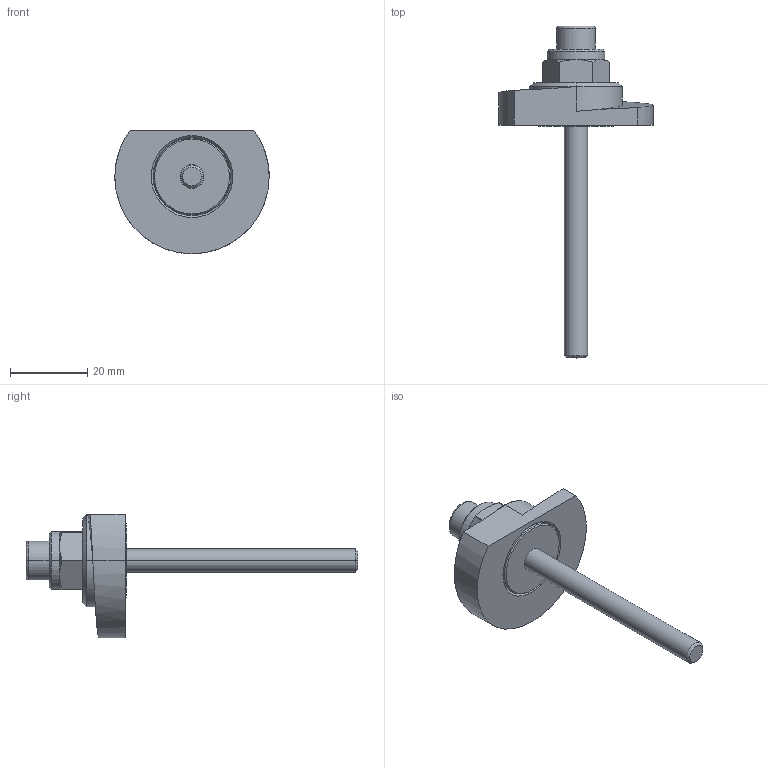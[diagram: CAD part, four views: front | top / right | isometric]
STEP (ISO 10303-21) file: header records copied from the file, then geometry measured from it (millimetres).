
FILE_DESCRIPTION (( 'STEP AP214' ), '1' );
FILE_NAME ('918.1-40-SKS-R-60.step', '2024-05-15T13:01:21', ( '' ), ( '' ), 'SwSTEP 2.0', 'SolidWorks 2022', '' );
FILE_SCHEMA (( 'AUTOMOTIVE_DESIGN' ));
Length unit declared in the file: millimetre
Products named in the file (1): 918.1-40-SKS-R-60
Bounding box: 40 x 86 x 32 mm (x, y, z)
Volume: 12646.5 mm3; surface area: 7339.4 mm2
Topology: 1 solids, 2 shells, 82 faces, 185 edges, 116 vertices
Faces by surface type: cylinder 30, plane 26, cone 22, torus 2, bspline 2
Entity records: 2641 total; most frequent: CARTESIAN_POINT 753, DIRECTION 407, ORIENTED_EDGE 370, EDGE_CURVE 185, AXIS2_PLACEMENT_3D 163, VERTEX_POINT 116, EDGE_LOOP 93, CIRCLE 82
